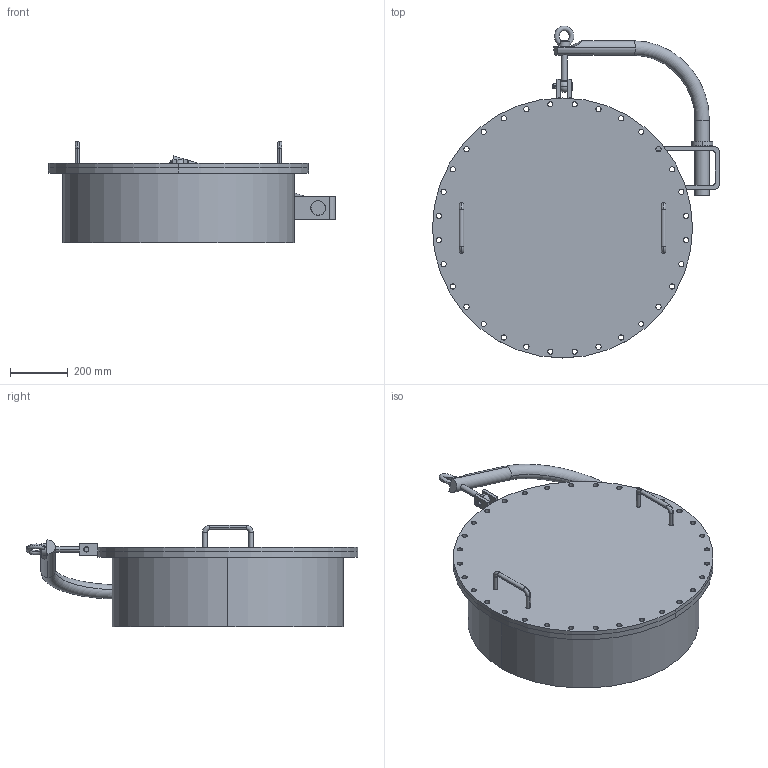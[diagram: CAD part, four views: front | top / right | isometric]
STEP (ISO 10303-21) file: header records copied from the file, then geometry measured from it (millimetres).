
FILE_DESCRIPTION (( 'STEP AP203' ), '1' );
FILE_NAME ('DIN 28124 - MA 800x250.STEP', '2016-06-27T07:33:19', ( '' ), ( '' ), 'SwSTEP 2.0', 'SolidWorks 2013', '' );
FILE_SCHEMA (( 'CONFIG_CONTROL_DESIGN' ));
Length unit declared in the file: millimetre
Products named in the file (12): DIN 1444; DIN 28124-4 Pos. 1 - Schwenkarm_DN 800; DIN 28124-4 Pos. 4 - Aufh鄚ge飉en; DIN 28124-4 Pos. 2 - Bund_DN 800; DIN 28124-4; DIN 28124-4 Pos. 3V - Tragbügel vertikal_DN 800; DIN 28124 - MA 800x250; DIN 28124-4 Pos. 6 - Mutter DIN 582 M20; DIN 28124-4 Pos. 5 - Augenschraube; Stutzenrohr; DIN 28031  Form A_DN 800; DIN 28124-1 [Mannlochverschlüsse für drucklose Behälter und Apparate] Form DA_800
Assembly tree (12 placements, depth 3):
  DIN 28124 - MA 800x250
    Stutzenrohr
    DIN 28031  Form A_DN 800
    DIN 28124-1 [Mannlochverschlüsse für drucklose Behälter und Apparate] Form DA_800
    DIN 28124-4
      DIN 28124-4 Pos. 1 - Schwenkarm_DN 800
      DIN 28124-4 Pos. 2 - Bund_DN 800
      DIN 28124-4 Pos. 3V - Tragbügel vertikal_DN 800
      DIN 28124-4 Pos. 6 - Mutter DIN 582 M20
      DIN 28124-4 Pos. 5 - Augenschraube
      DIN 1444
      DIN 28124-4 Pos. 4 - Aufh鄚ge飉en  x2
Bounding box: 993.53 x 1149 x 351 mm (x, y, z)
Volume: 18273310.2 mm3; surface area: 3322174.4 mm2
Topology: 11 solids, 11 shells, 259 faces, 687 edges, 448 vertices
Faces by surface type: cylinder 186, plane 42, torus 16, cone 10, sphere 3, bspline 2
Entity records: 10057 total; most frequent: CARTESIAN_POINT 1846, DIRECTION 1592, ORIENTED_EDGE 1332, AXIS2_PLACEMENT_3D 680, EDGE_CURVE 666, VERTEX_POINT 434, CIRCLE 415, EDGE_LOOP 404
